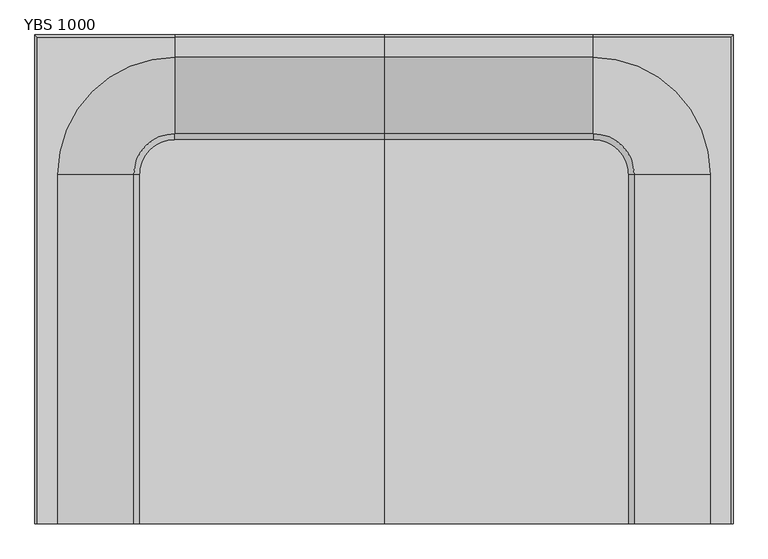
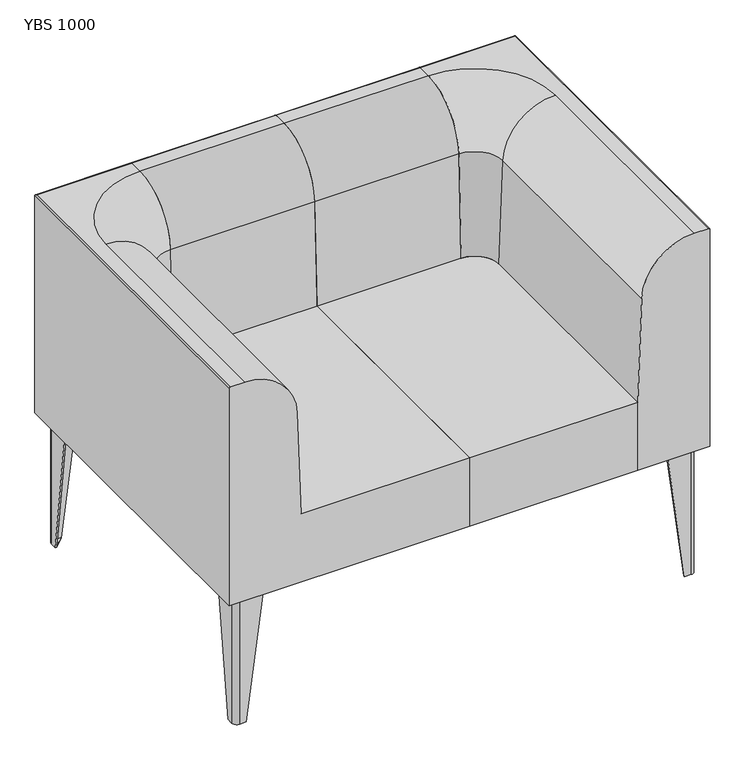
"""IFC4 building model written with IfcOpenShell, lengths in millimetres: furniture geometry, Mobiliário_Mobiliário de Escritório_LinhaYoung_Sofa Braço (Aço) - YB_Marelli : YBS 1000."""

from ifc_helpers import new_model, si_unit, point, frame, frame_2d, origin, origin_with_axes, place, context, project, spatial, polyline, circle_curve, ellipse_curve, trimmed, segment, composite_curve, outline, extrude, source, transform, mapped, element, save
from ifc_brep_helpers import plane_surface, cylinder_surface, revolved_surface, advanced_brep


def ybs_1000_178b8325(model_context):
    return source(origin(), model_context, "Body", "SolidModel", [
        advanced_brep(
        [(20.0, 75.0, 280.0), (20.0, 25.0, 280.0), (30.0, 15.0, 280.0), (80.0, 15.0, 280.0), (80.0, 18.0, 280.0), (30.0, 18.0, 280.0), (23.0, 25.0, 280.0), (23.0, 75.0, 280.0), (20.0, 39.0, 0.0), (23.0, 39.0, 0.0), (23.0, 25.0, 0.0), (30.0, 18.0, 0.0), (44.0, 18.0, 0.0), (44.0, 15.0, 0.0), (30.0, 15.0, 0.0), (20.0, 25.0, 0.0)],
        [
            (0, 1),
            (1, 2, circle_curve(frame((30.0, 25.0, 280.0), z_axis=(0.0, 0.0, 1.0), x_axis=(0.0, -1.0, 0.0)), 10.0)),
            (2, 3),
            (3, 4),
            (4, 5),
            (5, 6, circle_curve(frame((30.0, 25.0, 280.0), z_axis=(0.0, 0.0, -1.0), x_axis=(-1.0, 0.0, 0.0)), 7.0)),
            (6, 7),
            (7, 0),
            (8, 9),
            (9, 10),
            (10, 11, circle_curve(frame((30.0, 25.0, 0.0), z_axis=(0.0, 0.0, 1.0), x_axis=(-1.0, 0.0, 0.0)), 7.0)),
            (11, 12),
            (12, 13),
            (13, 14),
            (14, 15, circle_curve(frame((30.0, 25.0, 0.0), z_axis=(0.0, 0.0, -1.0), x_axis=(0.0, -1.0, 0.0)), 10.0)),
            (15, 8),
            (15, 1),
            (0, 8),
            (14, 2),
            (13, 3),
            (12, 4),
            (11, 5),
            (10, 6),
            (9, 7),
        ],
        [
            plane_surface(frame((38.25, 33.25, 280.0), z_axis=(0.0, 0.0, 1.0), x_axis=(0.0, -1.0, 0.0))),
            plane_surface(frame((29.25, 24.25, 0.0), z_axis=(0.0, 0.0, -1.0), x_axis=(0.0, -1.0, 0.0))),
            plane_surface(frame((20.0, 32.0, 0.0), z_axis=(-1.0, 0.0, 0.0), x_axis=(0.0, -1.0, 0.0))),
            cylinder_surface(frame((30.0, 25.0, 0.0), z_axis=(0.0, 0.0, 1.0), x_axis=(0.0, -1.0, 0.0)), 10.0),
            plane_surface(frame((37.0, 15.0, 0.0), z_axis=(0.0, -1.0, 0.0), x_axis=(1.0, 0.0, 0.0))),
            plane_surface(frame((44.0, 16.5, 0.0), z_axis=(0.9918357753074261, 0.0, -0.12752174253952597), x_axis=(0.0, 1.0, 0.0))),
            plane_surface(frame((37.0, 18.0, 0.0), z_axis=(0.0, 1.0, 0.0), x_axis=(-1.0, 0.0, 0.0))),
            revolved_surface(polyline([(23.0, 25.0, 280.0), (23.0, 25.0, 0.0)]), (30.0, 25.0, 0.0), (0.0, 0.0, 1.0)),
            plane_surface(frame((23.0, 32.0, 0.0), z_axis=(1.0, 0.0, 0.0), x_axis=(0.0, 1.0, 0.0))),
            plane_surface(frame((21.5, 39.0, 0.0), z_axis=(0.0, 0.9918357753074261, -0.12752174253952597), x_axis=(-1.0, 0.0, 0.0))),
        ],
        [
            (0, [[1, 2, 3, 4, 5, 6, 7, 8]]),
            (1, [[9, 10, 11, 12, 13, 14, 15, 16]]),
            (2, [[-16, 17, -1, 18]]),
            (3, [[-15, 19, -2, -17]]),
            (4, [[-14, 20, -3, -19]]),
            (5, [[-13, 21, -4, -20]]),
            (6, [[-12, 22, -5, -21]]),
            (7, [[-11, 23, -6, -22]]),
            (8, [[-10, 24, -7, -23]]),
            (9, [[-9, -18, -8, -24]]),
        ],
    ),
        advanced_brep(
        [(980.0, 75.0, 280.0), (977.0, 75.0, 280.0), (977.0, 25.0, 280.0), (970.0, 18.0, 280.0), (920.0, 18.0, 280.0), (920.0, 15.0, 280.0), (970.0, 15.0, 280.0), (980.0, 25.0, 280.0), (980.0, 39.0, 0.0), (980.0, 25.0, 0.0), (970.0, 15.0, 0.0), (956.0, 15.0, 0.0), (956.0, 18.0, 0.0), (970.0, 18.0, 0.0), (977.0, 25.0, 0.0), (977.0, 39.0, 0.0)],
        [
            (0, 1),
            (1, 2),
            (2, 3, circle_curve(frame((970.0, 25.0, 280.0), z_axis=(0.0, 0.0, -1.0), x_axis=(0.0, -1.0, 0.0)), 7.0)),
            (3, 4),
            (4, 5),
            (5, 6),
            (6, 7, circle_curve(frame((970.0, 25.0, 280.0), z_axis=(0.0, 0.0, 1.0), x_axis=(1.0, 0.0, 0.0)), 10.0)),
            (7, 0),
            (8, 9),
            (9, 10, circle_curve(frame((970.0, 25.0, 0.0), z_axis=(0.0, 0.0, -1.0), x_axis=(1.0, 0.0, 0.0)), 10.0)),
            (10, 11),
            (11, 12),
            (12, 13),
            (13, 14, circle_curve(frame((970.0, 25.0, 0.0), z_axis=(0.0, 0.0, 1.0), x_axis=(0.0, -1.0, 0.0)), 7.0)),
            (14, 15),
            (15, 8),
            (8, 0),
            (7, 9),
            (6, 10),
            (5, 11),
            (4, 12),
            (3, 13),
            (2, 14),
            (1, 15),
        ],
        [
            plane_surface(frame((961.75, 33.25, 280.0), z_axis=(0.0, 0.0, 1.0), x_axis=(-1.0, 0.0, 0.0))),
            plane_surface(frame((970.75, 24.25, 0.0), z_axis=(0.0, 0.0, -1.0), x_axis=(-1.0, 0.0, 0.0))),
            plane_surface(frame((980.0, 32.0, 0.0), z_axis=(1.0, 0.0, 0.0), x_axis=(0.0, 1.0, 0.0))),
            cylinder_surface(frame((970.0, 25.0, 0.0), z_axis=(0.0, 0.0, 1.0), x_axis=(1.0, 0.0, 0.0)), 10.0),
            plane_surface(frame((963.0, 15.0, 0.0), z_axis=(0.0, -1.0, 0.0), x_axis=(1.0, 0.0, 0.0))),
            plane_surface(frame((956.0, 16.5, 0.0), z_axis=(-0.991835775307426, 0.0, -0.12752174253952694), x_axis=(0.0, -1.0, 0.0))),
            plane_surface(frame((963.0, 18.0, 0.0), z_axis=(0.0, 1.0, 0.0), x_axis=(-1.0, 0.0, 0.0))),
            revolved_surface(polyline([(970.0, 18.0, 280.0), (970.0, 18.0, 0.0)]), (970.0, 25.0, 0.0), (0.0, 0.0, 1.0)),
            plane_surface(frame((977.0, 32.0, 0.0), z_axis=(-1.0, 0.0, 0.0), x_axis=(0.0, -1.0, 0.0))),
            plane_surface(frame((978.5, 39.0, 0.0), z_axis=(0.0, 0.9918357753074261, -0.12752174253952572), x_axis=(-1.0, 0.0, 0.0))),
        ],
        [
            (0, [[1, 2, 3, 4, 5, 6, 7, 8]]),
            (1, [[9, 10, 11, 12, 13, 14, 15, 16]]),
            (2, [[-9, 17, -8, 18]]),
            (3, [[-10, -18, -7, 19]]),
            (4, [[-11, -19, -6, 20]]),
            (5, [[-12, -20, -5, 21]]),
            (6, [[-13, -21, -4, 22]]),
            (7, [[-14, -22, -3, 23]]),
            (8, [[-15, -23, -2, 24]]),
            (9, [[-16, -24, -1, -17]]),
        ],
    ),
        advanced_brep(
        [(20.0, 625.0, 280.0), (23.0, 625.0, 280.0), (23.0, 675.0, 280.0), (30.0, 682.0, 280.0), (80.0, 682.0, 280.0), (80.0, 685.0, 280.0), (30.0, 685.0, 280.0), (20.0, 675.0, 280.0), (20.0, 661.0, 0.0), (20.0, 675.0, 0.0), (30.0, 685.0, 0.0), (44.0, 685.0, 0.0), (44.0, 682.0, 0.0), (30.0, 682.0, 0.0), (23.0, 675.0, 0.0), (23.0, 661.0, 0.0)],
        [
            (0, 1),
            (1, 2),
            (2, 3, circle_curve(frame((30.0, 675.0, 280.0), z_axis=(0.0, 0.0, -1.0), x_axis=(0.0, 1.0, 0.0)), 7.0)),
            (3, 4),
            (4, 5),
            (5, 6),
            (6, 7, circle_curve(frame((30.0, 675.0, 280.0), z_axis=(0.0, 0.0, 1.0), x_axis=(-1.0, 0.0, 0.0)), 10.0)),
            (7, 0),
            (8, 9),
            (9, 10, circle_curve(frame((30.0, 675.0, 0.0), z_axis=(0.0, 0.0, -1.0), x_axis=(-1.0, 0.0, 0.0)), 10.0)),
            (10, 11),
            (11, 12),
            (12, 13),
            (13, 14, circle_curve(frame((30.0, 675.0, 0.0), z_axis=(0.0, 0.0, 1.0), x_axis=(0.0, 1.0, 0.0)), 7.0)),
            (14, 15),
            (15, 8),
            (8, 0),
            (7, 9),
            (6, 10),
            (5, 11),
            (4, 12),
            (3, 13),
            (2, 14),
            (1, 15),
        ],
        [
            plane_surface(frame((38.25, 666.75, 280.0), z_axis=(0.0, 0.0, 1.0), x_axis=(1.0, 0.0, 0.0))),
            plane_surface(frame((29.25, 675.75, 0.0), z_axis=(0.0, 0.0, -1.0), x_axis=(1.0, 0.0, 0.0))),
            plane_surface(frame((20.0, 668.0, 0.0), z_axis=(-1.0, 0.0, 0.0), x_axis=(0.0, -1.0, 0.0))),
            cylinder_surface(frame((30.0, 675.0, 0.0), z_axis=(0.0, 0.0, 1.0), x_axis=(-1.0, 0.0, 0.0)), 10.0),
            plane_surface(frame((37.0, 685.0, 0.0), z_axis=(0.0, 1.0, 0.0), x_axis=(-1.0, 0.0, 0.0))),
            plane_surface(frame((44.0, 683.5, 0.0), z_axis=(0.9918357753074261, 0.0, -0.12752174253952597), x_axis=(0.0, 1.0, 0.0))),
            plane_surface(frame((37.0, 682.0, 0.0), z_axis=(0.0, -1.0, 0.0), x_axis=(1.0, 0.0, 0.0))),
            revolved_surface(polyline([(30.0, 682.0, 280.0), (30.0, 682.0, 0.0)]), (30.0, 675.0, 0.0), (0.0, 0.0, 1.0)),
            plane_surface(frame((23.0, 668.0, 0.0), z_axis=(1.0, 0.0, 0.0), x_axis=(0.0, 1.0, 0.0))),
            plane_surface(frame((21.5, 661.0, 0.0), z_axis=(0.0, -0.9918357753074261, -0.127521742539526), x_axis=(1.0, 0.0, 0.0))),
        ],
        [
            (0, [[1, 2, 3, 4, 5, 6, 7, 8]]),
            (1, [[9, 10, 11, 12, 13, 14, 15, 16]]),
            (2, [[-9, 17, -8, 18]]),
            (3, [[-10, -18, -7, 19]]),
            (4, [[-11, -19, -6, 20]]),
            (5, [[-12, -20, -5, 21]]),
            (6, [[-13, -21, -4, 22]]),
            (7, [[-14, -22, -3, 23]]),
            (8, [[-15, -23, -2, 24]]),
            (9, [[-16, -24, -1, -17]]),
        ],
    ),
        advanced_brep(
        [(980.0, 625.0, 280.0), (980.0, 675.0, 280.0), (970.0, 685.0, 280.0), (920.0, 685.0, 280.0), (920.0, 682.0, 280.0), (970.0, 682.0, 280.0), (977.0, 675.0, 280.0), (977.0, 625.0, 280.0), (980.0, 661.0, 0.0), (977.0, 661.0, 0.0), (977.0, 675.0, 0.0), (970.0, 682.0, 0.0), (956.0, 682.0, 0.0), (956.0, 685.0, 0.0), (970.0, 685.0, 0.0), (980.0, 675.0, 0.0)],
        [
            (0, 1),
            (1, 2, circle_curve(frame((970.0, 675.0, 280.0), z_axis=(0.0, 0.0, 1.0), x_axis=(0.0, 1.0, 0.0)), 10.0)),
            (2, 3),
            (3, 4),
            (4, 5),
            (5, 6, circle_curve(frame((970.0, 675.0, 280.0), z_axis=(0.0, 0.0, -1.0), x_axis=(1.0, 0.0, 0.0)), 7.0)),
            (6, 7),
            (7, 0),
            (8, 9),
            (9, 10),
            (10, 11, circle_curve(frame((970.0, 675.0, 0.0), z_axis=(0.0, 0.0, 1.0), x_axis=(1.0, 0.0, 0.0)), 7.0)),
            (11, 12),
            (12, 13),
            (13, 14),
            (14, 15, circle_curve(frame((970.0, 675.0, 0.0), z_axis=(0.0, 0.0, -1.0), x_axis=(0.0, 1.0, 0.0)), 10.0)),
            (15, 8),
            (15, 1),
            (0, 8),
            (14, 2),
            (13, 3),
            (12, 4),
            (11, 5),
            (10, 6),
            (9, 7),
        ],
        [
            plane_surface(frame((961.75, 666.75, 280.0), z_axis=(0.0, 0.0, 1.0), x_axis=(0.0, 1.0, 0.0))),
            plane_surface(frame((970.75, 675.75, 0.0), z_axis=(0.0, 0.0, -1.0), x_axis=(0.0, 1.0, 0.0))),
            plane_surface(frame((980.0, 668.0, 0.0), z_axis=(1.0, 0.0, 0.0), x_axis=(0.0, 1.0, 0.0))),
            cylinder_surface(frame((970.0, 675.0, 0.0), z_axis=(0.0, 0.0, 1.0), x_axis=(0.0, 1.0, 0.0)), 10.0),
            plane_surface(frame((963.0, 685.0, 0.0), z_axis=(0.0, 1.0, 0.0), x_axis=(-1.0, 0.0, 0.0))),
            plane_surface(frame((956.0, 683.5, 0.0), z_axis=(-0.9918357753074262, 0.0, -0.12752174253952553), x_axis=(0.0, -1.0, 0.0))),
            plane_surface(frame((963.0, 682.0, 0.0), z_axis=(0.0, -1.0, 0.0), x_axis=(1.0, 0.0, 0.0))),
            revolved_surface(polyline([(977.0, 675.0, 280.0), (977.0, 675.0, 0.0)]), (970.0, 675.0, 0.0), (0.0, 0.0, 1.0)),
            plane_surface(frame((977.0, 668.0, 0.0), z_axis=(-1.0, 0.0, 0.0), x_axis=(0.0, -1.0, 0.0))),
            plane_surface(frame((978.5, 661.0, 0.0), z_axis=(0.0, -0.991835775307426, -0.12752174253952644), x_axis=(1.0, 0.0, 0.0))),
        ],
        [
            (0, [[1, 2, 3, 4, 5, 6, 7, 8]]),
            (1, [[9, 10, 11, 12, 13, 14, 15, 16]]),
            (2, [[-16, 17, -1, 18]]),
            (3, [[-15, 19, -2, -17]]),
            (4, [[-14, 20, -3, -19]]),
            (5, [[-13, 21, -4, -20]]),
            (6, [[-12, 22, -5, -21]]),
            (7, [[-11, 23, -6, -22]]),
            (8, [[-10, 24, -7, -23]]),
            (9, [[-9, -18, -8, -24]]),
        ],
    ),
        extrude(outline(composite_curve([segment(polyline([(23.0, 39.0), (44.0, 18.0), (30.0, 18.0)]), True, "CONTINUOUS"), segment(trimmed(circle_curve(frame_2d((30.0, 25.0)), 7.0), [point((30.0, 18.0))], [point((23.0, 25.0))], False, "CARTESIAN"), True, "CONTINUOUS"), segment(polyline([(23.0, 25.0), (23.0, 39.0)]), True, "CONTINUOUS")], self_intersect=False)), origin_with_axes(), (0.0, 0.0, 1.0), 1.0),
        extrude(outline(composite_curve([segment(polyline([(23.0, 661.0), (23.0, 675.0)]), True, "CONTINUOUS"), segment(trimmed(circle_curve(frame_2d((30.0, 675.0)), 7.0), [point((23.0, 675.0))], [point((30.0, 682.0))], False, "CARTESIAN"), True, "CONTINUOUS"), segment(polyline([(30.0, 682.0), (44.0, 682.0), (23.0, 661.0)]), True, "CONTINUOUS")], self_intersect=False)), origin_with_axes(), (0.0, 0.0, 1.0), 1.0),
        extrude(outline(composite_curve([segment(polyline([(977.0, 39.0), (977.0, 25.0)]), True, "CONTINUOUS"), segment(trimmed(circle_curve(frame_2d((970.0, 25.0)), 7.0), [point((977.0, 25.0))], [point((970.0, 18.0))], False, "CARTESIAN"), True, "CONTINUOUS"), segment(polyline([(970.0, 18.0), (956.0, 18.0), (977.0, 39.0)]), True, "CONTINUOUS")], self_intersect=False)), origin_with_axes(), (0.0, 0.0, 1.0), 1.0),
        extrude(outline(composite_curve([segment(polyline([(977.0, 661.0), (956.0, 682.0), (970.0, 682.0)]), True, "CONTINUOUS"), segment(trimmed(circle_curve(frame_2d((970.0, 675.0)), 7.0), [point((970.0, 682.0))], [point((977.0, 675.0))], False, "CARTESIAN"), True, "CONTINUOUS"), segment(polyline([(977.0, 675.0), (977.0, 661.0)]), True, "CONTINUOUS")], self_intersect=False)), origin_with_axes(), (0.0, 0.0, 1.0), 1.0),
        extrude(outline(composite_curve([segment(trimmed(circle_curve(frame_2d((30.0, 25.0)), 7.0), [point((30.0, 18.0))], [point((23.0, 25.0))], False, "CARTESIAN"), True, "CONTINUOUS"), segment(polyline([(23.0, 25.0), (23.0, 93.0)]), True, "CONTINUOUS"), segment(trimmed(circle_curve(frame_2d((28.0, 93.0)), 5.0), [point((23.0, 93.0))], [point((28.0, 98.0))], False, "CARTESIAN"), True, "CONTINUOUS"), segment(polyline([(28.0, 98.0), (51.9545624, 98.0)]), True, "CONTINUOUS"), segment(trimmed(circle_curve(frame_2d((52.6241051, 89.931755)), 8.0959783), [point((51.9545624, 98.0))], [point((58.520382, 95.479618))], False, "CARTESIAN"), True, "CONTINUOUS"), segment(polyline([(58.520382, 95.479618), (100.479618, 53.520382)]), True, "CONTINUOUS"), segment(trimmed(circle_curve(frame_2d((94.931755, 47.6241051)), 8.0959783), [point((100.479618, 53.520382))], [point((103.0, 46.9545624))], False, "CARTESIAN"), True, "CONTINUOUS"), segment(polyline([(103.0, 46.9545624), (103.0, 23.0)]), True, "CONTINUOUS"), segment(trimmed(circle_curve(frame_2d((98.0, 23.0)), 5.0), [point((103.0, 23.0))], [point((98.0, 18.0))], False, "CARTESIAN"), True, "CONTINUOUS"), segment(polyline([(98.0, 18.0), (30.0, 18.0)]), True, "CONTINUOUS")], self_intersect=False)), frame((0.0, 0.0, 279.0), z_axis=(0.0, 0.0, 1.0), x_axis=(1.0, 0.0, 0.0)), (0.0, 0.0, 1.0), 1.0),
        extrude(outline(composite_curve([segment(polyline([(30.0, 682.0), (98.0, 682.0)]), True, "CONTINUOUS"), segment(trimmed(circle_curve(frame_2d((98.0, 677.0)), 5.0), [point((98.0, 682.0))], [point((103.0, 677.0))], False, "CARTESIAN"), True, "CONTINUOUS"), segment(polyline([(103.0, 677.0), (103.0, 653.0454376)]), True, "CONTINUOUS"), segment(trimmed(circle_curve(frame_2d((94.931755, 652.3758949)), 8.0959783), [point((103.0, 653.0454376))], [point((100.479618, 646.479618))], False, "CARTESIAN"), True, "CONTINUOUS"), segment(polyline([(100.479618, 646.479618), (58.520382, 604.520382)]), True, "CONTINUOUS"), segment(trimmed(circle_curve(frame_2d((52.6241051, 610.068245)), 8.0959783), [point((58.520382, 604.520382))], [point((51.9545624, 602.0))], False, "CARTESIAN"), True, "CONTINUOUS"), segment(polyline([(51.9545624, 602.0), (28.0, 602.0)]), True, "CONTINUOUS"), segment(trimmed(circle_curve(frame_2d((28.0, 607.0)), 5.0), [point((28.0, 602.0))], [point((23.0, 607.0))], False, "CARTESIAN"), True, "CONTINUOUS"), segment(polyline([(23.0, 607.0), (23.0, 675.0)]), True, "CONTINUOUS"), segment(trimmed(circle_curve(frame_2d((30.0, 675.0)), 7.0), [point((23.0, 675.0))], [point((30.0, 682.0))], False, "CARTESIAN"), True, "CONTINUOUS")], self_intersect=False)), frame((0.0, 0.0, 279.0), z_axis=(0.0, 0.0, 1.0), x_axis=(1.0, 0.0, 0.0)), (0.0, 0.0, 1.0), 1.0),
        extrude(outline(composite_curve([segment(trimmed(circle_curve(frame_2d((970.0, 675.0)), 7.0), [point((970.0, 682.0))], [point((977.0, 675.0))], False, "CARTESIAN"), True, "CONTINUOUS"), segment(polyline([(977.0, 675.0), (977.0, 607.0)]), True, "CONTINUOUS"), segment(trimmed(circle_curve(frame_2d((972.0, 607.0)), 5.0), [point((977.0, 607.0))], [point((972.0, 602.0))], False, "CARTESIAN"), True, "CONTINUOUS"), segment(polyline([(972.0, 602.0), (948.0454376, 602.0)]), True, "CONTINUOUS"), segment(trimmed(circle_curve(frame_2d((947.3758949, 610.068245)), 8.0959783), [point((948.0454376, 602.0))], [point((941.479618, 604.520382))], False, "CARTESIAN"), True, "CONTINUOUS"), segment(polyline([(941.479618, 604.520382), (899.520382, 646.479618)]), True, "CONTINUOUS"), segment(trimmed(circle_curve(frame_2d((905.068245, 652.3758949)), 8.0959783), [point((899.520382, 646.479618))], [point((897.0, 653.0454376))], False, "CARTESIAN"), True, "CONTINUOUS"), segment(polyline([(897.0, 653.0454376), (897.0, 677.0)]), True, "CONTINUOUS"), segment(trimmed(circle_curve(frame_2d((902.0, 677.0)), 5.0), [point((897.0, 677.0))], [point((902.0, 682.0))], False, "CARTESIAN"), True, "CONTINUOUS"), segment(polyline([(902.0, 682.0), (970.0, 682.0)]), True, "CONTINUOUS")], self_intersect=False)), frame((0.0, 0.0, 279.0), z_axis=(0.0, 0.0, 1.0), x_axis=(1.0, 0.0, 0.0)), (0.0, 0.0, 1.0), 1.0),
        extrude(outline(composite_curve([segment(polyline([(970.0, 18.0), (902.0, 18.0)]), True, "CONTINUOUS"), segment(trimmed(circle_curve(frame_2d((902.0, 23.0)), 5.0), [point((902.0, 18.0))], [point((897.0, 23.0))], False, "CARTESIAN"), True, "CONTINUOUS"), segment(polyline([(897.0, 23.0), (897.0, 46.9545624)]), True, "CONTINUOUS"), segment(trimmed(circle_curve(frame_2d((905.068245, 47.6241051)), 8.0959783), [point((897.0, 46.9545624))], [point((899.520382, 53.520382))], False, "CARTESIAN"), True, "CONTINUOUS"), segment(polyline([(899.520382, 53.520382), (941.479618, 95.479618)]), True, "CONTINUOUS"), segment(trimmed(circle_curve(frame_2d((947.3758949, 89.931755)), 8.0959783), [point((941.479618, 95.479618))], [point((948.0454376, 98.0))], False, "CARTESIAN"), True, "CONTINUOUS"), segment(polyline([(948.0454376, 98.0), (972.0, 98.0)]), True, "CONTINUOUS"), segment(trimmed(circle_curve(frame_2d((972.0, 93.0)), 5.0), [point((972.0, 98.0))], [point((977.0, 93.0))], False, "CARTESIAN"), True, "CONTINUOUS"), segment(polyline([(977.0, 93.0), (977.0, 25.0)]), True, "CONTINUOUS"), segment(trimmed(circle_curve(frame_2d((970.0, 25.0)), 7.0), [point((977.0, 25.0))], [point((970.0, 18.0))], False, "CARTESIAN"), True, "CONTINUOUS")], self_intersect=False)), frame((0.0, 0.0, 279.0), z_axis=(0.0, 0.0, 1.0), x_axis=(1.0, 0.0, 0.0)), (0.0, 0.0, 1.0), 1.0),
        advanced_brep(
        [(968.0, 0.0, 760.0), (858.2568376, 0.0, 654.223651), (850.0, 0.0, 430.0), (850.0, 0.0, 280.0), (1000.0, 0.0, 280.0), (1000.0, 0.0, 756.9835797), (996.9835797, 0.0, 760.0), (800.0, 668.0, 760.0), (968.0, 500.0, 760.0), (996.9835797, 696.9835797, 760.0), (800.0, 696.9835797, 760.0), (858.2568376, 500.0, 654.223651), (850.0, 500.0, 430.0), (850.0, 500.0, 280.0), (800.0, 550.0, 280.0), (800.0, 700.0, 280.0), (1000.0, 700.0, 280.0), (1000.0, 700.0, 756.9835797), (800.0, 558.2568376, 654.223651), (800.0, 550.0, 430.0), (800.0, 700.0, 756.9835797)],
        [
            (0, 1, circle_curve(frame((968.0, 0.0, 650.1824561), z_axis=(0.0, -1.0, 0.0), x_axis=(-1.0, 0.0, 0.0)), 109.8175439)),
            (1, 2),
            (2, 3),
            (3, 4),
            (4, 5),
            (5, 6, circle_curve(frame((996.9835797, 0.0, 756.9835797), z_axis=(0.0, -1.0, 0.0), x_axis=(-1.0, 0.0, 0.0)), 3.0164203)),
            (6, 0),
            (7, 8, circle_curve(frame((800.0, 500.0, 760.0), z_axis=(0.0, 0.0, -1.0), x_axis=(1.0, 0.0, 0.0)), 168.0)),
            (8, 0),
            (6, 9),
            (9, 10),
            (10, 7),
            (8, 11, circle_curve(frame((968.0, 500.0, 650.1824561), z_axis=(0.0, -1.0, 0.0), x_axis=(-1.0, 0.0, 0.0)), 109.8175439)),
            (11, 1),
            (11, 12),
            (12, 2),
            (12, 13),
            (13, 3),
            (13, 14, circle_curve(frame((800.0, 500.0, 280.0), z_axis=(0.0, 0.0, 1.0), x_axis=(1.0, 0.0, 0.0)), 50.0)),
            (14, 15),
            (15, 16),
            (16, 4),
            (16, 17),
            (17, 5),
            (7, 18, circle_curve(frame((800.0, 668.0, 650.1824561), z_axis=(1.0, 0.0, 0.0), x_axis=(0.0, -1.0, 0.0)), 109.8175439)),
            (18, 11, circle_curve(frame((800.0, 500.0, 654.223651), z_axis=(0.0, 0.0, -1.0), x_axis=(1.0, 0.0, 0.0)), 58.2568376)),
            (18, 19),
            (19, 12, circle_curve(frame((800.0, 500.0, 430.0), z_axis=(0.0, 0.0, -1.0), x_axis=(1.0, 0.0, 0.0)), 50.0)),
            (19, 14),
            (20, 10, circle_curve(frame((800.0, 696.9835797, 756.9835797), z_axis=(1.0, 0.0, 0.0), x_axis=(0.0, 1.0, 0.0)), 3.0164203)),
            (9, 17, ellipse_curve(frame((996.9835797, 696.9835797, 756.9835797), z_axis=(-0.7071067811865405, 0.7071067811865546, 0.0), x_axis=(0.7071067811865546, 0.7071067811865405, 0.0)), 4.2658626, 3.0164203)),
            (17, 20),
            (20, 15),
        ],
        [
            plane_surface(frame((850.0, 0.0, 0.0), z_axis=(0.0, -1.0, 0.0), x_axis=(0.0, 0.0, 1.0))),
            plane_surface(frame((1000.0, 0.0, 760.0), z_axis=(0.0, 0.0, 1.0), x_axis=(0.0, 1.0, 0.0))),
            cylinder_surface(frame((968.0, 0.0, 650.1824561), z_axis=(0.0, -1.0, 0.0), x_axis=(-1.0, 0.0, 0.0)), 109.8175439),
            plane_surface(frame((858.2568376, 0.0, 654.223651), z_axis=(-0.9993226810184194, 0.0, 0.03679917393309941), x_axis=(0.0, 1.0, 0.0))),
            plane_surface(frame((850.0, 0.0, 430.0), z_axis=(-1.0, 0.0, 0.0), x_axis=(0.0, 1.0, 0.0))),
            plane_surface(frame((850.0, 0.0, 280.0), z_axis=(0.0, 0.0, -1.0), x_axis=(0.0, 1.0, 0.0))),
            plane_surface(frame((1000.0, 0.0, 280.0), z_axis=(1.0, 0.0, 0.0), x_axis=(0.0, 1.0, 0.0))),
            revolved_surface(trimmed(ellipse_curve(frame((968.0, 500.0, 650.1824561), z_axis=(0.0, -1.0, 0.0), x_axis=(-1.0, 0.0, 0.0)), 109.8175439, 109.8175439), [point((968.0, 500.0, 760.0))], [point((858.2568376, 500.0, 654.223651))], True, "CARTESIAN"), (800.0, 500.0, 0.0), (0.0, 0.0, 1.0)),
            revolved_surface(polyline([(858.2568376, 500.0, 654.223651), (850.0, 500.0, 430.0)]), (800.0, 500.0, 0.0), (0.0, 0.0, 1.0)),
            revolved_surface(polyline([(850.0, 500.0, 430.0), (850.0, 500.0, 280.0)]), (800.0, 500.0, 0.0), (0.0, 0.0, 1.0)),
            cylinder_surface(frame((1000.0, 696.9835797, 756.9835797), z_axis=(1.0, 0.0, 0.0), x_axis=(0.0, 1.0, 0.0)), 3.0164203),
            plane_surface(frame((800.0, 550.0, 0.0), z_axis=(-1.0, 0.0, 0.0), x_axis=(0.0, 0.0, 1.0))),
            plane_surface(frame((1000.0, 700.0, 760.0), z_axis=(0.0, 1.0, 0.0), x_axis=(0.0, 0.0, -1.0))),
            cylinder_surface(frame((996.9835797, 0.0, 756.9835797), z_axis=(0.0, 1.0, 0.0), x_axis=(-1.0, 0.0, 0.0)), 3.0164203),
        ],
        [
            (0, [[1, 2, 3, 4, 5, 6, 7]]),
            (1, [[8, 9, -7, 10, 11, 12]]),
            (2, [[-1, -9, 13, 14]]),
            (3, [[-2, -14, 15, 16]]),
            (4, [[-3, -16, 17, 18]]),
            (5, [[-4, -18, 19, 20, 21, 22]]),
            (6, [[-22, 23, 24, -5]]),
            (7, [[-8, 25, 26, -13]]),
            (8, [[-15, -26, 27, 28]]),
            (9, [[-17, -28, 29, -19]]),
            (10, [[30, -11, 31, 32]]),
            (11, [[-20, -29, -27, -25, -12, -30, 33]]),
            (12, [[-21, -33, -32, -23]]),
            (13, [[-6, -24, -31, -10]]),
        ],
    ),
        advanced_brep(
        [(200.0, 700.0, 756.9835797), (0.0, 700.0, 756.9835797), (3.0164203, 696.9835797, 760.0), (200.0, 696.9835797, 760.0), (500.0, 550.0, 430.0), (200.0, 550.0, 430.0), (150.0, 500.0, 430.0), (150.0, 0.0, 430.0), (500.0, 0.0, 430.0), (500.0, 550.0, 280.0), (200.0, 550.0, 280.0), (32.0, 0.0, 760.0), (32.0, 500.0, 760.0), (200.0, 668.0, 760.0), (3.0164203, 0.0, 760.0), (0.0, 700.0, 280.0), (200.0, 700.0, 280.0), (500.0, 0.0, 280.0), (0.0, 0.0, 280.0), (0.0, 0.0, 756.9835797), (141.7431624, 0.0, 654.223651), (141.7431624, 500.0, 654.223651), (200.0, 558.2568376, 654.223651)],
        [
            (0, 1),
            (1, 2, ellipse_curve(frame((3.0164203, 696.9835797, 756.9835797), z_axis=(0.7071067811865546, 0.7071067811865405, 0.0), x_axis=(0.7071067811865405, -0.7071067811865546, 0.0)), 4.2658626, 3.0164203)),
            (2, 3),
            (3, 0, circle_curve(frame((200.0, 696.9835797, 756.9835797), z_axis=(-1.0, 0.0, 0.0), x_axis=(0.0, 1.0, 0.0)), 3.0164203)),
            (4, 5),
            (5, 6, circle_curve(frame((200.0, 500.0, 430.0), z_axis=(0.0, 0.0, 1.0), x_axis=(-1.0, 0.0, 0.0)), 50.0)),
            (6, 7),
            (7, 8),
            (8, 4),
            (4, 9),
            (9, 10),
            (10, 5),
            (11, 12),
            (12, 13, circle_curve(frame((200.0, 500.0, 760.0), z_axis=(0.0, 0.0, -1.0), x_axis=(-1.0, 0.0, 0.0)), 168.0)),
            (13, 3),
            (2, 14),
            (14, 11),
            (15, 16),
            (16, 10),
            (9, 17),
            (17, 18),
            (18, 15),
            (15, 1),
            (0, 16),
            (18, 19),
            (19, 1),
            (19, 14, circle_curve(frame((3.0164203, 0.0, 756.9835797), z_axis=(0.0, 1.0, 0.0), x_axis=(-1.0, 0.0, 0.0)), 3.0164203)),
            (7, 20),
            (20, 11, circle_curve(frame((32.0, 0.0, 650.1824561), z_axis=(0.0, -1.0, 0.0), x_axis=(-1.0, 0.0, 0.0)), 109.8175439)),
            (17, 8),
            (20, 21),
            (21, 12, circle_curve(frame((32.0, 500.0, 650.1824561), z_axis=(0.0, -1.0, 0.0), x_axis=(-1.0, 0.0, 0.0)), 109.8175439)),
            (6, 21),
            (13, 22, circle_curve(frame((200.0, 668.0, 650.1824561), z_axis=(1.0, 0.0, 0.0), x_axis=(0.0, 1.0, 0.0)), 109.8175439)),
            (22, 5),
            (21, 22, circle_curve(frame((200.0, 500.0, 654.223651), z_axis=(0.0, 0.0, -1.0), x_axis=(-1.0, 0.0, 0.0)), 58.2568376)),
        ],
        [
            cylinder_surface(frame((1000.0, 696.9835797, 756.9835797), z_axis=(1.0, 0.0, 0.0), x_axis=(0.0, 1.0, 0.0)), 3.0164203),
            plane_surface(frame((200.0, 550.0, 430.0), z_axis=(0.0, 0.0, 1.0), x_axis=(-1.0, 0.0, 0.0))),
            plane_surface(frame((500.0, 550.0, 430.0), z_axis=(0.0, 1.0, 0.0), x_axis=(0.0, 0.0, -1.0))),
            plane_surface(frame((0.0, 500.0, 760.0), z_axis=(0.0, 0.0, 1.0), x_axis=(0.0, -1.0, 0.0))),
            plane_surface(frame((0.0, 500.0, 280.0), z_axis=(0.0, 0.0, -1.0), x_axis=(0.0, 1.0, 0.0))),
            plane_surface(frame((200.0, 700.0, 760.0), z_axis=(0.0, 1.0, 0.0), x_axis=(0.0, 0.0, -1.0))),
            plane_surface(frame((0.0, 700.0, 760.0), z_axis=(-1.0, 0.0, 0.0), x_axis=(0.0, 0.0, -1.0))),
            cylinder_surface(frame((3.0164203, 700.0, 756.9835797), z_axis=(0.0, 1.0, 0.0), x_axis=(-1.0, 0.0, 0.0)), 3.0164203),
            plane_surface(frame((150.0, 0.0, 0.0), z_axis=(0.0, -1.0, 0.0), x_axis=(0.0, 0.0, 1.0))),
            cylinder_surface(frame((32.0, 0.0, 650.1824561), z_axis=(0.0, -1.0, 0.0), x_axis=(-1.0, 0.0, 0.0)), 109.8175439),
            plane_surface(frame((150.0, 0.0, 430.0), z_axis=(0.9993226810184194, 0.0, 0.036799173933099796), x_axis=(0.0, 1.0, 0.0))),
            plane_surface(frame((200.0, 550.0, 0.0), z_axis=(1.0, 0.0, 0.0), x_axis=(0.0, 0.0, 1.0))),
            revolved_surface(trimmed(ellipse_curve(frame((32.0, 500.0, 650.1824561), z_axis=(0.0, -1.0, 0.0), x_axis=(-1.0, 0.0, 0.0)), 109.8175439, 109.8175439), [point((141.7431624, 500.0, 654.223651))], [point((32.0, 500.0, 760.0))], True, "CARTESIAN"), (200.0, 500.0, 0.0), (0.0, 0.0, -1.0)),
            revolved_surface(polyline([(150.0, 500.0, 430.0), (141.7431624, 500.0, 654.223651)]), (200.0, 500.0, 0.0), (0.0, 0.0, -1.0)),
            plane_surface(frame((500.0, 0.0, 430.0), z_axis=(1.0, 0.0, 0.0), x_axis=(0.0, 0.0, -1.0))),
        ],
        [
            (0, [[1, 2, 3, 4]]),
            (1, [[5, 6, 7, 8, 9]]),
            (2, [[-5, 10, 11, 12]]),
            (3, [[13, 14, 15, -3, 16, 17]]),
            (4, [[18, 19, -11, 20, 21, 22]]),
            (5, [[-18, 23, -1, 24]]),
            (6, [[-22, 25, 26, -23]]),
            (7, [[-16, -2, -26, 27]]),
            (8, [[28, 29, -17, -27, -25, -21, 30, -8]]),
            (9, [[-29, 31, 32, -13]]),
            (10, [[-28, -7, 33, -31]]),
            (11, [[-19, -24, -4, -15, 34, 35, -12]]),
            (12, [[-14, -32, 36, -34]]),
            (13, [[-33, -6, -35, -36]]),
            (14, [[-9, -30, -20, -10]]),
        ],
    ),
        extrude(outline(composite_curve([segment(polyline([(500.0, 550.0), (800.0, 550.0)]), True, "CONTINUOUS"), segment(trimmed(circle_curve(frame_2d((800.0, 500.0)), 50.0), [point((800.0, 550.0))], [point((850.0, 500.0))], False, "CARTESIAN"), True, "CONTINUOUS"), segment(polyline([(850.0, 500.0), (850.0, 0.0), (500.0, 0.0), (500.0, 550.0)]), True, "CONTINUOUS")], self_intersect=False)), frame((0.0, 0.0, 280.0), z_axis=(0.0, 0.0, 1.0), x_axis=(1.0, 0.0, 0.0)), (0.0, 0.0, 1.0), 150.0),
        extrude(outline(composite_curve([segment(polyline([(550.0, 430.0), (558.2568376, 654.223651)]), True, "CONTINUOUS"), segment(trimmed(circle_curve(frame_2d((668.0, 650.1824561)), 109.8175439), [point((558.2568376, 654.223651))], [point((668.0, 760.0))], False, "CARTESIAN"), True, "CONTINUOUS"), segment(polyline([(668.0, 760.0), (696.9835797, 760.0)]), True, "CONTINUOUS"), segment(trimmed(circle_curve(frame_2d((696.9835797, 756.9835797)), 3.0164203), [point((696.9835797, 760.0))], [point((700.0, 756.9835797))], False, "CARTESIAN"), True, "CONTINUOUS"), segment(polyline([(700.0, 756.9835797), (700.0, 280.0), (550.0, 280.0), (550.0, 430.0)]), True, "CONTINUOUS")], self_intersect=False)), frame((200.0, 0.0, 0.0), z_axis=(1.0, 0.0, 0.0), x_axis=(0.0, 1.0, 0.0)), (0.0, 0.0, 1.0), 300.0),
        extrude(outline(composite_curve([segment(polyline([(550.0, 430.0), (558.2568376, 654.223651)]), True, "CONTINUOUS"), segment(trimmed(circle_curve(frame_2d((668.0, 650.1824561)), 109.8175439), [point((558.2568376, 654.223651))], [point((668.0, 760.0))], False, "CARTESIAN"), True, "CONTINUOUS"), segment(polyline([(668.0, 760.0), (696.9835797, 760.0)]), True, "CONTINUOUS"), segment(trimmed(circle_curve(frame_2d((696.9835797, 756.9835797)), 3.0164203), [point((696.9835797, 760.0))], [point((700.0, 756.9835797))], False, "CARTESIAN"), True, "CONTINUOUS"), segment(polyline([(700.0, 756.9835797), (700.0, 280.0), (550.0, 280.0), (550.0, 430.0)]), True, "CONTINUOUS")], self_intersect=False)), frame((500.0, 0.0, 0.0), z_axis=(1.0, 0.0, 0.0), x_axis=(0.0, 1.0, 0.0)), (0.0, 0.0, 1.0), 300.0),
    ])


if __name__ == "__main__":
    model = new_model("IFC4")
    model_context = context("Model", 3, world=origin())
    ifc_project = project(units=[si_unit("LENGTHUNIT", "METRE", prefix="MILLI")], contexts=[model_context])
    site = spatial("IfcSite", under=ifc_project)
    building = spatial("IfcBuilding", under=site)
    placement = place(None, origin())
    ybs_1000_shape = ybs_1000_178b8325(model_context)
    element("IfcFurniture", 1, ObjectType="Mobiliário_Mobiliário de Escritório_LinhaYoung_Sofa Braço (Aço) - YB_Marelli : YBS 1000", at=placement, inside=building, context=model_context, shape_type="MappedRepresentation", body=[
        mapped(ybs_1000_shape, transform((0.0, 0.0, 0.0), x_axis=(1.0, 0.0, 0.0), y_axis=(0.0, 1.0, 0.0), z_axis=(0.0, 0.0, 1.0))),
    ])
    save(model, "model.ifc")
